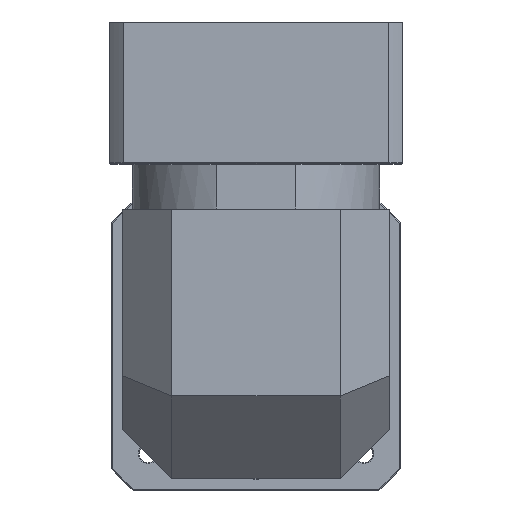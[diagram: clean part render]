
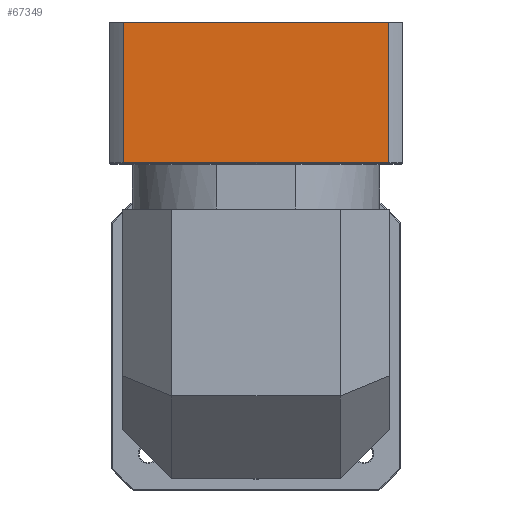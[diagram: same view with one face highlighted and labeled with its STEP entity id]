
A CAD part, top view. The second image highlights one B-rep face of the part: STEP entity #67349.
In plain terms, the highlighted planar face has unit normal (0, 0, 1).
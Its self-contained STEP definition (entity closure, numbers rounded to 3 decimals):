
#1312 = DIRECTION ( 'NONE',  ( 1., 0., 0. ) ) ;
#2779 = ORIENTED_EDGE ( 'NONE', *, *, #76715, .F. ) ;
#3205 = VERTEX_POINT ( 'NONE', #103659 ) ;
#12522 = CARTESIAN_POINT ( 'NONE',  ( -16.196, 288.179, 105.818 ) ) ;
#13061 = ORIENTED_EDGE ( 'NONE', *, *, #109042, .F. ) ;
#18631 = VERTEX_POINT ( 'NONE', #104557 ) ;
#29888 = CARTESIAN_POINT ( 'NONE',  ( -16.704, 288.179, 105.818 ) ) ;
#39148 = VECTOR ( 'NONE', #47725, 1000. ) ;
#41081 = LINE ( 'NONE', #56301, #91933 ) ;
#41939 = VERTEX_POINT ( 'NONE', #29888 ) ;
#47707 = ORIENTED_EDGE ( 'NONE', *, *, #69727, .F. ) ;
#47725 = DIRECTION ( 'NONE',  ( 0., 1., 0. ) ) ;
#51788 = EDGE_CURVE ( 'NONE', #41939, #18631, #41081, .T. ) ;
#55048 = EDGE_LOOP ( 'NONE', ( #47707, #2779, #102897, #13061 ) ) ;
#56301 = CARTESIAN_POINT ( 'NONE',  ( -16.704, -140.126, 105.818 ) ) ;
#62804 = CARTESIAN_POINT ( 'NONE',  ( -177.689, 288.179, 105.818 ) ) ;
#64112 = VECTOR ( 'NONE', #1312, 1000. ) ;
#64708 = CARTESIAN_POINT ( 'NONE',  ( -8.196, 288.679, 105.818 ) ) ;
#66797 = CARTESIAN_POINT ( 'NONE',  ( -177.689, -140.126, 105.818 ) ) ;
#67349 = ADVANCED_FACE ( 'NONE', ( #68498 ), #114572, .F. ) ;
#68498 = FACE_OUTER_BOUND ( 'NONE', #55048, .T. ) ;
#69727 = EDGE_CURVE ( 'NONE', #3205, #70175, #91621, .T. ) ;
#70175 = VERTEX_POINT ( 'NONE', #62804 ) ;
#70370 = AXIS2_PLACEMENT_3D ( 'NONE', #64708, #123649, #114162 ) ;
#76715 = EDGE_CURVE ( 'NONE', #18631, #3205, #88152, .T. ) ;
#88152 = LINE ( 'NONE', #113167, #105091 ) ;
#91621 = LINE ( 'NONE', #66797, #39148 ) ;
#91933 = VECTOR ( 'NONE', #127337, 1000. ) ;
#93376 = LINE ( 'NONE', #12522, #64112 ) ;
#94202 = DIRECTION ( 'NONE',  ( -1., 0., 0. ) ) ;
#102897 = ORIENTED_EDGE ( 'NONE', *, *, #51788, .F. ) ;
#103659 = CARTESIAN_POINT ( 'NONE',  ( -177.689, 203.179, 105.818 ) ) ;
#104557 = CARTESIAN_POINT ( 'NONE',  ( -16.704, 203.179, 105.818 ) ) ;
#105091 = VECTOR ( 'NONE', #94202, 1000. ) ;
#109042 = EDGE_CURVE ( 'NONE', #70175, #41939, #93376, .T. ) ;
#113167 = CARTESIAN_POINT ( 'NONE',  ( -8.196, 203.179, 105.818 ) ) ;
#114162 = DIRECTION ( 'NONE',  ( 0., -1., 0. ) ) ;
#114572 = PLANE ( 'NONE',  #70370 ) ;
#123649 = DIRECTION ( 'NONE',  ( 0., 0., -1. ) ) ;
#127337 = DIRECTION ( 'NONE',  ( 0., -1., 0. ) ) ;
